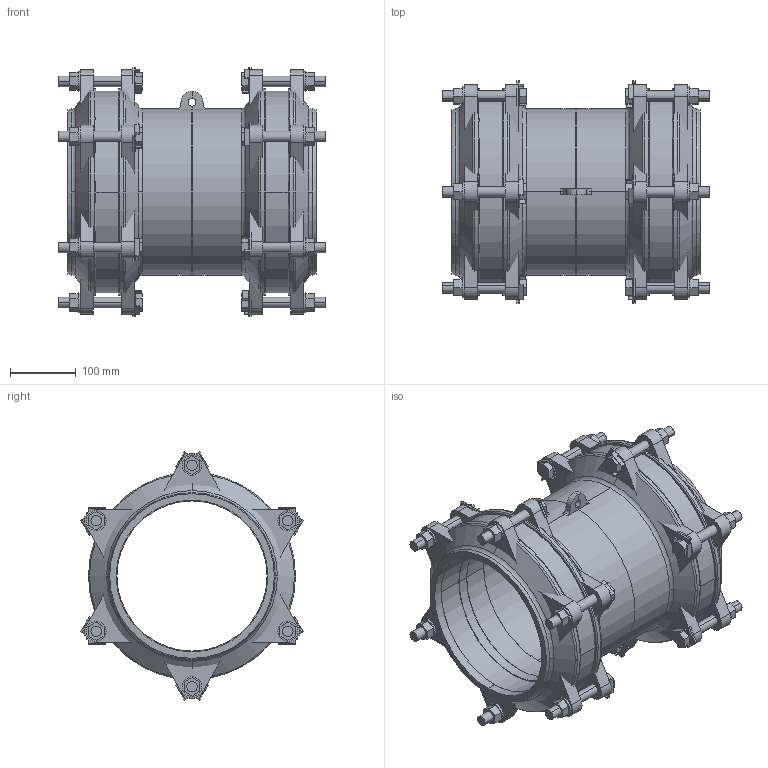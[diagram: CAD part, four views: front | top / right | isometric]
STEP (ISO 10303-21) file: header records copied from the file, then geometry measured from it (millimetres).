
FILE_DESCRIPTION(('STEP AP214'),'1');
FILE_NAME('MJ000056 DN 200.STP','2015-02-06T12:18:09',(' '),(' '),'Spatial InterOp 3D',' ',' ');
FILE_SCHEMA(('automotive_design'));
Length unit declared in the file: millimetre
Products named in the file (108): 3D-Objekt
Bounding box: 406 x 337.88 x 376.92 mm (x, y, z)
Volume: 7486594.3 mm3; surface area: 1699806.4 mm2
Topology: 108 solids, 108 shells, 790 faces, 1716 edges, 1140 vertices
Faces by surface type: plane 582, cylinder 160, cone 24, torus 24
Entity records: 30318 total; most frequent: DIRECTION 3940, CARTESIAN_POINT 3754, ORIENTED_EDGE 3432, EDGE_CURVE 1716, AXIS2_PLACEMENT_3D 1326, LINE 1288, VECTOR 1288, VERTEX_POINT 1140
